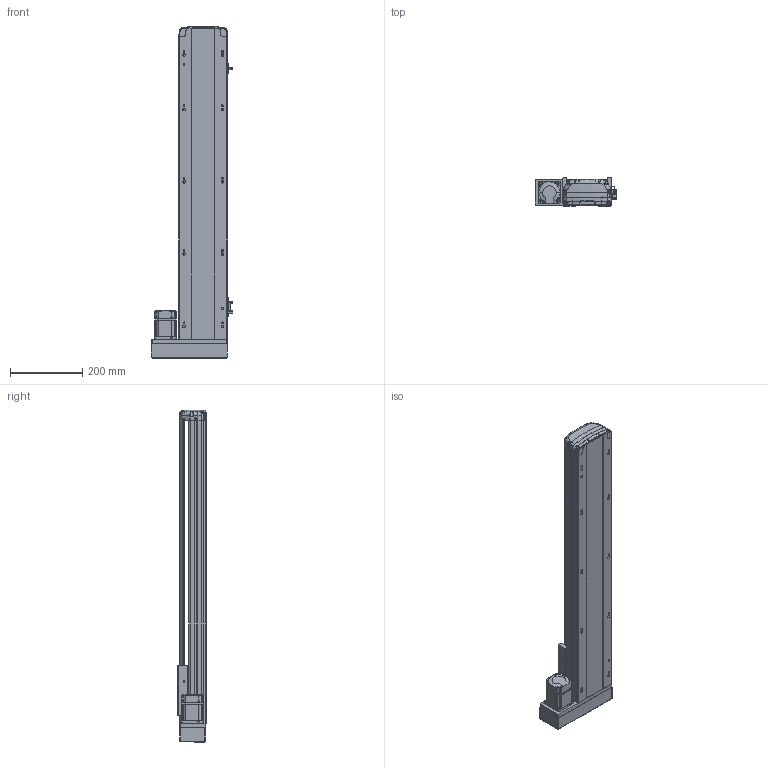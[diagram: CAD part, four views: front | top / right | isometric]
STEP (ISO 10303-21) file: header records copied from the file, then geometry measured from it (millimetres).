
FILE_DESCRIPTION (( 'STEP AP214' ), '1' );
FILE_NAME ('RTH14-XX-650-L-M20-C4.STEP', '2025-10-25T02:38:50', ( 'Microsoft' ), ( 'Microsoft' ), 'SwSTEP 2.0', 'SolidWorks 2018', '' );
FILE_SCHEMA (( 'AUTOMOTIVE_DESIGN' ));
Length unit declared in the file: millimetre
Products named in the file (10): N_RTH14-R-004-SFSR16賑釱^RTH14-XX-XX-L-M20-C4; N_RTH13-L-008-P20 萇儂啣酘蛌殏^RTH14-XX-XX-L-M20-C4; N_RTH14-GY-001P^RTH14-XX-XX-L-M20-C4; RTH14-XX-650-L-M20-C4; N_RTH13-L-012感应片（外置）^RTH14-XX-XX-L-M20-C4; N_RTH13-L-018 裔赽^RTH14-XX-XX-L-M20-C4; N_RTH14-M-007P奻裔^RTH14-XX-XX-L-M20-C4; N_MSMD022P1AA_200W^RTH14-XX-XX-L-M20-C4; N_OMRON EE-SX672 传感器^RTH14-XX-XX-L-M20-C4; N_RTH14-M-011P菁釱^RTH14-XX-XX-L-M20-C4
Assembly tree (11 placements, depth 2):
  RTH14-XX-650-L-M20-C4
    N_RTH14-M-011P菁釱^RTH14-XX-XX-L-M20-C4
    N_RTH14-M-007P奻裔^RTH14-XX-XX-L-M20-C4
    N_MSMD022P1AA_200W^RTH14-XX-XX-L-M20-C4
    N_RTH13-L-008-P20 萇儂啣酘蛌殏^RTH14-XX-XX-L-M20-C4
    N_RTH13-L-018 裔赽^RTH14-XX-XX-L-M20-C4
    N_RTH13-L-012感应片（外置）^RTH14-XX-XX-L-M20-C4
    N_OMRON EE-SX672 传感器^RTH14-XX-XX-L-M20-C4  x3
    N_RTH14-GY-001P^RTH14-XX-XX-L-M20-C4
    N_RTH14-R-004-SFSR16賑釱^RTH14-XX-XX-L-M20-C4
Bounding box: 224 x 78.03 x 917.37 mm (x, y, z)
Volume: 4143761.3 mm3; surface area: 966536.5 mm2
Topology: 11 solids, 11 shells, 1868 faces, 5219 edges, 3418 vertices
Faces by surface type: plane 989, cylinder 485, bspline 345, cone 45, torus 4
Entity records: 56981 total; most frequent: CARTESIAN_POINT 22997, ORIENTED_EDGE 7506, DIRECTION 6018, EDGE_CURVE 3753, VERTEX_POINT 2454, LINE 2154, VECTOR 2154, AXIS2_PLACEMENT_3D 1932
